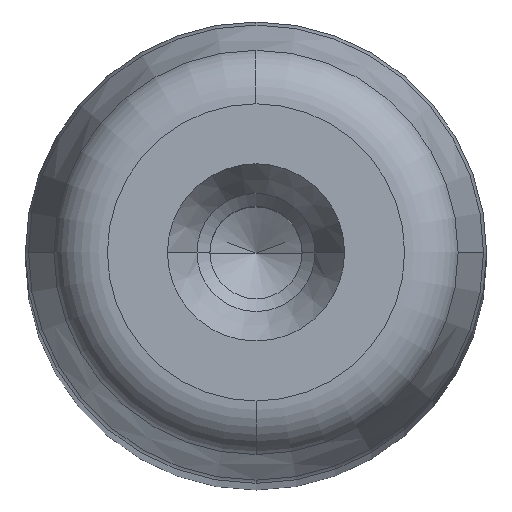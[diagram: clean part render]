
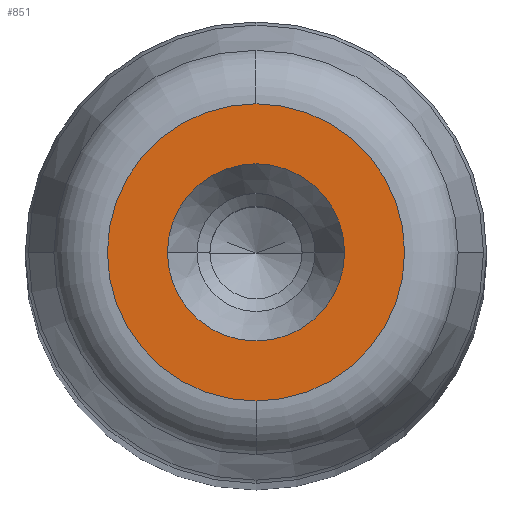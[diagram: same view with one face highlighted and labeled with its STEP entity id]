
A CAD part, top view. The second image highlights one B-rep face of the part: STEP entity #851.
In plain terms, the highlighted planar face has unit normal (0, 0, 1) as drawn and (0, 1, 0) by its records, which use the part's own axes.
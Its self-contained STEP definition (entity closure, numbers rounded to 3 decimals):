
#281=CARTESIAN_POINT('',(4.8,220.0,0.0));
#282=VERTEX_POINT('',#281);
#289=CARTESIAN_POINT('',(-4.8,220.0,0.));
#290=VERTEX_POINT('',#289);
#291=CARTESIAN_POINT('',(0.0,220.0,0.0));
#292=DIRECTION('',(0.0,1.0,0.0));
#293=DIRECTION('',(1.0,0.0,0.0));
#294=AXIS2_PLACEMENT_3D('',#291,#292,#293);
#295=CIRCLE('',#294,4.8);
#296=EDGE_CURVE('',#282,#290,#295,.T.);
#313=CARTESIAN_POINT('',(0.0,220.,8.054));
#314=VERTEX_POINT('',#313);
#324=CARTESIAN_POINT('',(0.,220.,-8.054));
#325=VERTEX_POINT('',#324);
#326=CARTESIAN_POINT('',(0.0,220.,0.0));
#327=DIRECTION('',(0.0,1.0,0.0));
#328=DIRECTION('',(1.0,0.0,0.0));
#329=AXIS2_PLACEMENT_3D('',#326,#327,#328);
#330=CIRCLE('',#329,8.054);
#331=EDGE_CURVE('',#325,#314,#330,.T.);
#812=CARTESIAN_POINT('',(8.054,220.,0.0));
#813=VERTEX_POINT('',#812);
#814=CARTESIAN_POINT('',(0.0,220.,0.0));
#815=DIRECTION('',(0.0,1.0,0.0));
#816=DIRECTION('',(1.0,0.0,0.0));
#817=AXIS2_PLACEMENT_3D('',#814,#815,#816);
#818=CIRCLE('',#817,8.054);
#819=EDGE_CURVE('',#813,#325,#818,.T.);
#821=CARTESIAN_POINT('',(0.0,220.,0.0));
#822=DIRECTION('',(0.0,1.0,0.0));
#823=DIRECTION('',(1.0,0.0,0.0));
#824=AXIS2_PLACEMENT_3D('',#821,#822,#823);
#825=CIRCLE('',#824,8.054);
#826=EDGE_CURVE('',#314,#813,#825,.T.);
#831=CARTESIAN_POINT('',(-8.86,220.0,-8.86));
#832=DIRECTION('',(0.0,1.0,0.0));
#833=DIRECTION('',(0.0,0.0,1.0));
#834=AXIS2_PLACEMENT_3D('',#831,#832,#833);
#835=PLANE('',#834);
#836=ORIENTED_EDGE('',*,*,#819,.T.);
#837=ORIENTED_EDGE('',*,*,#331,.T.);
#838=ORIENTED_EDGE('',*,*,#826,.T.);
#839=EDGE_LOOP('',(#836,#837,#838));
#840=FACE_OUTER_BOUND('',#839,.T.);
#841=ORIENTED_EDGE('',*,*,#296,.F.);
#842=CARTESIAN_POINT('',(0.0,220.0,0.0));
#843=DIRECTION('',(0.0,1.0,0.0));
#844=DIRECTION('',(1.0,0.0,0.0));
#845=AXIS2_PLACEMENT_3D('',#842,#843,#844);
#846=CIRCLE('',#845,4.8);
#847=EDGE_CURVE('',#290,#282,#846,.T.);
#848=ORIENTED_EDGE('',*,*,#847,.F.);
#849=EDGE_LOOP('',(#841,#848));
#850=FACE_BOUND('',#849,.T.);
#851=ADVANCED_FACE('',(#840,#850),#835,.T.);
